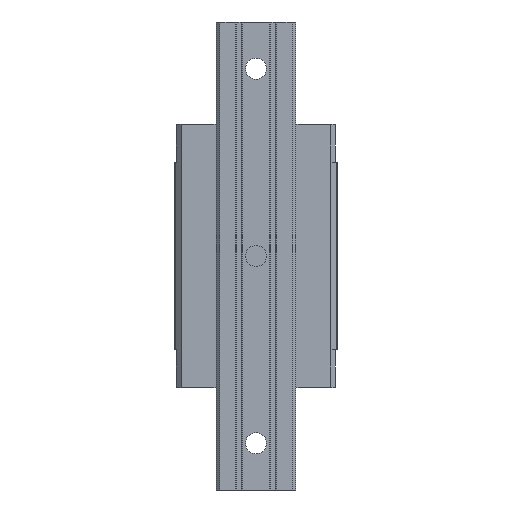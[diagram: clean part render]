
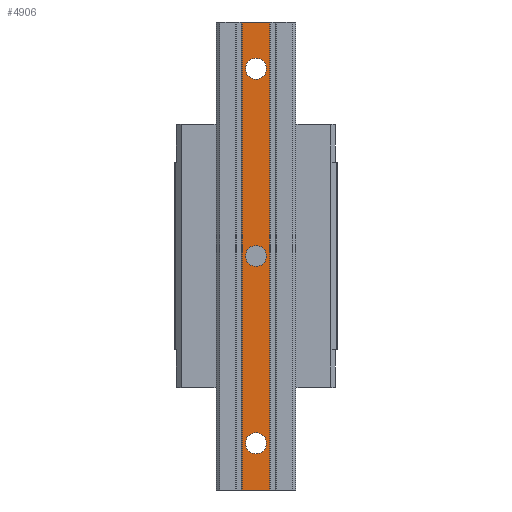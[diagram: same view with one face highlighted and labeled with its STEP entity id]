
A CAD part, front view. The second image highlights one B-rep face of the part: STEP entity #4906.
In plain terms, the highlighted planar face has unit normal (0, -1, 0).
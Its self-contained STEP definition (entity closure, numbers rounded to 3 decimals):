
#174 = CARTESIAN_POINT ( 'NONE',  ( 0., -29., 84.5 ) ) ;
#422 = CARTESIAN_POINT ( 'NONE',  ( 0., -29., -4.5 ) ) ;
#480 = CARTESIAN_POINT ( 'NONE',  ( 0., -29., -80. ) ) ;
#672 = DIRECTION ( 'NONE',  ( 0., 0., 1. ) ) ;
#749 = VERTEX_POINT ( 'NONE', #6350 ) ;
#764 = ORIENTED_EDGE ( 'NONE', *, *, #3388, .T. ) ;
#803 = PLANE ( 'NONE',  #1413 ) ;
#887 = VERTEX_POINT ( 'NONE', #2848 ) ;
#942 = EDGE_LOOP ( 'NONE', ( #4404, #764 ) ) ;
#1079 = VERTEX_POINT ( 'NONE', #5048 ) ;
#1397 = CARTESIAN_POINT ( 'NONE',  ( 0., -29., 100. ) ) ;
#1413 = AXIS2_PLACEMENT_3D ( 'NONE', #5603, #5115, #2267 ) ;
#1462 = DIRECTION ( 'NONE',  ( 0., 0., 1. ) ) ;
#1507 = AXIS2_PLACEMENT_3D ( 'NONE', #480, #2955, #3457 ) ;
#1513 = CARTESIAN_POINT ( 'NONE',  ( 0., -29., -80. ) ) ;
#1544 = DIRECTION ( 'NONE',  ( 0., 0., -1. ) ) ;
#1595 = ORIENTED_EDGE ( 'NONE', *, *, #1873, .T. ) ;
#1658 = CARTESIAN_POINT ( 'NONE',  ( 5.85, -29., -100. ) ) ;
#1741 = FACE_OUTER_BOUND ( 'NONE', #2378, .T. ) ;
#1753 = CARTESIAN_POINT ( 'NONE',  ( 0., -29., -100. ) ) ;
#1873 = EDGE_CURVE ( 'NONE', #749, #4550, #2304, .T. ) ;
#2005 = LINE ( 'NONE', #5836, #5194 ) ;
#2140 = DIRECTION ( 'NONE',  ( 0., 1., 0. ) ) ;
#2157 = ORIENTED_EDGE ( 'NONE', *, *, #5358, .T. ) ;
#2173 = FACE_BOUND ( 'NONE', #5572, .T. ) ;
#2260 = VERTEX_POINT ( 'NONE', #2606 ) ;
#2267 = DIRECTION ( 'NONE',  ( 0., 0., -1. ) ) ;
#2304 = LINE ( 'NONE', #1753, #3941 ) ;
#2315 = ORIENTED_EDGE ( 'NONE', *, *, #5009, .T. ) ;
#2378 = EDGE_LOOP ( 'NONE', ( #3666, #1595, #4111, #2882 ) ) ;
#2407 = CARTESIAN_POINT ( 'NONE',  ( 0., -29., 0. ) ) ;
#2606 = CARTESIAN_POINT ( 'NONE',  ( -5.85, -29., 100. ) ) ;
#2681 = VERTEX_POINT ( 'NONE', #422 ) ;
#2848 = CARTESIAN_POINT ( 'NONE',  ( 0., -29., 75.5 ) ) ;
#2882 = ORIENTED_EDGE ( 'NONE', *, *, #6056, .F. ) ;
#2928 = CARTESIAN_POINT ( 'NONE',  ( 0., -29., -75.5 ) ) ;
#2946 = VERTEX_POINT ( 'NONE', #2928 ) ;
#2955 = DIRECTION ( 'NONE',  ( 0., 1., 0. ) ) ;
#3086 = LINE ( 'NONE', #1658, #3831 ) ;
#3115 = AXIS2_PLACEMENT_3D ( 'NONE', #4575, #2140, #3149 ) ;
#3149 = DIRECTION ( 'NONE',  ( 0., 0., 1. ) ) ;
#3184 = VECTOR ( 'NONE', #4810, 1000. ) ;
#3211 = EDGE_LOOP ( 'NONE', ( #4335, #4933 ) ) ;
#3239 = AXIS2_PLACEMENT_3D ( 'NONE', #1513, #3486, #4955 ) ;
#3256 = FACE_BOUND ( 'NONE', #942, .T. ) ;
#3388 = EDGE_CURVE ( 'NONE', #887, #5907, #4935, .T. ) ;
#3407 = CIRCLE ( 'NONE', #3115, 4.5 ) ;
#3457 = DIRECTION ( 'NONE',  ( 0., 0., 1. ) ) ;
#3486 = DIRECTION ( 'NONE',  ( 0., 1., 0. ) ) ;
#3490 = EDGE_CURVE ( 'NONE', #2260, #749, #2005, .T. ) ;
#3666 = ORIENTED_EDGE ( 'NONE', *, *, #3490, .T. ) ;
#3815 = LINE ( 'NONE', #1397, #3184 ) ;
#3831 = VECTOR ( 'NONE', #672, 1000. ) ;
#3911 = VERTEX_POINT ( 'NONE', #4806 ) ;
#3941 = VECTOR ( 'NONE', #5772, 1000. ) ;
#4062 = CARTESIAN_POINT ( 'NONE',  ( 5.85, -29., -100. ) ) ;
#4111 = ORIENTED_EDGE ( 'NONE', *, *, #4332, .T. ) ;
#4145 = EDGE_CURVE ( 'NONE', #3911, #2946, #5666, .T. ) ;
#4160 = CIRCLE ( 'NONE', #4555, 4.5 ) ;
#4184 = FACE_BOUND ( 'NONE', #3211, .T. ) ;
#4270 = DIRECTION ( 'NONE',  ( 0., 0., 1. ) ) ;
#4332 = EDGE_CURVE ( 'NONE', #4550, #4623, #3086, .T. ) ;
#4335 = ORIENTED_EDGE ( 'NONE', *, *, #6123, .T. ) ;
#4381 = DIRECTION ( 'NONE',  ( 0., 1., 0. ) ) ;
#4404 = ORIENTED_EDGE ( 'NONE', *, *, #5576, .T. ) ;
#4550 = VERTEX_POINT ( 'NONE', #4062 ) ;
#4555 = AXIS2_PLACEMENT_3D ( 'NONE', #4754, #6102, #4270 ) ;
#4575 = CARTESIAN_POINT ( 'NONE',  ( 0., -29., 0. ) ) ;
#4623 = VERTEX_POINT ( 'NONE', #4643 ) ;
#4643 = CARTESIAN_POINT ( 'NONE',  ( 5.85, -29., 100. ) ) ;
#4676 = CARTESIAN_POINT ( 'NONE',  ( 0., -29., 80. ) ) ;
#4754 = CARTESIAN_POINT ( 'NONE',  ( 0., -29., 80. ) ) ;
#4803 = CIRCLE ( 'NONE', #1507, 4.5 ) ;
#4806 = CARTESIAN_POINT ( 'NONE',  ( 0., -29., -84.5 ) ) ;
#4810 = DIRECTION ( 'NONE',  ( 1., 0., 0. ) ) ;
#4812 = CIRCLE ( 'NONE', #5012, 4.5 ) ;
#4906 = ADVANCED_FACE ( 'NONE', ( #4184, #3256, #2173, #1741 ), #803, .T. ) ;
#4933 = ORIENTED_EDGE ( 'NONE', *, *, #4145, .T. ) ;
#4935 = CIRCLE ( 'NONE', #6164, 4.5 ) ;
#4955 = DIRECTION ( 'NONE',  ( 0., 0., 1. ) ) ;
#5009 = EDGE_CURVE ( 'NONE', #2681, #1079, #4812, .T. ) ;
#5012 = AXIS2_PLACEMENT_3D ( 'NONE', #2407, #4381, #1462 ) ;
#5048 = CARTESIAN_POINT ( 'NONE',  ( 0., -29., 4.5 ) ) ;
#5115 = DIRECTION ( 'NONE',  ( 0., -1., 0. ) ) ;
#5194 = VECTOR ( 'NONE', #1544, 1000. ) ;
#5358 = EDGE_CURVE ( 'NONE', #1079, #2681, #3407, .T. ) ;
#5572 = EDGE_LOOP ( 'NONE', ( #2157, #2315 ) ) ;
#5576 = EDGE_CURVE ( 'NONE', #5907, #887, #4160, .T. ) ;
#5603 = CARTESIAN_POINT ( 'NONE',  ( -5.85, -29., -100. ) ) ;
#5666 = CIRCLE ( 'NONE', #3239, 4.5 ) ;
#5772 = DIRECTION ( 'NONE',  ( 1., 0., 0. ) ) ;
#5836 = CARTESIAN_POINT ( 'NONE',  ( -5.85, -29., -100. ) ) ;
#5907 = VERTEX_POINT ( 'NONE', #174 ) ;
#6056 = EDGE_CURVE ( 'NONE', #2260, #4623, #3815, .T. ) ;
#6102 = DIRECTION ( 'NONE',  ( 0., 1., 0. ) ) ;
#6123 = EDGE_CURVE ( 'NONE', #2946, #3911, #4803, .T. ) ;
#6129 = DIRECTION ( 'NONE',  ( 0., 0., 1. ) ) ;
#6164 = AXIS2_PLACEMENT_3D ( 'NONE', #4676, #6192, #6129 ) ;
#6192 = DIRECTION ( 'NONE',  ( 0., 1., 0. ) ) ;
#6350 = CARTESIAN_POINT ( 'NONE',  ( -5.85, -29., -100. ) ) ;
